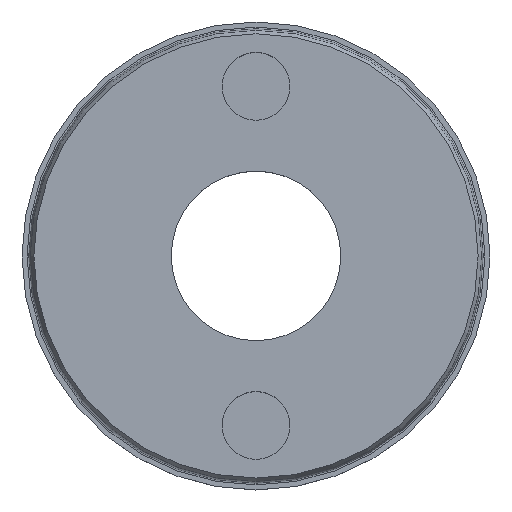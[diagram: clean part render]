
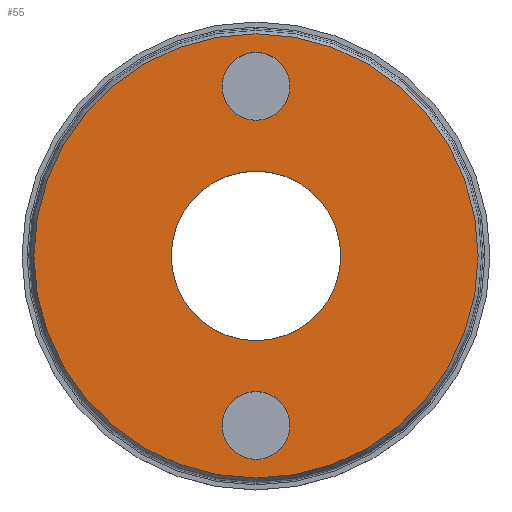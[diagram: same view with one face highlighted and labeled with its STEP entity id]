
A CAD part, top view. The second image highlights one B-rep face of the part: STEP entity #55.
In plain terms, the highlighted planar face has unit normal (0, 0, 1).
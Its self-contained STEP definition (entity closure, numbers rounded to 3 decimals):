
#55=ADVANCED_FACE('',(#76,#77,#78,#79),#71,.T.);
#71=PLANE('',#223);
#76=FACE_BOUND('',#106,.T.);
#77=FACE_BOUND('',#107,.T.);
#78=FACE_BOUND('',#108,.T.);
#79=FACE_BOUND('',#109,.T.);
#106=EDGE_LOOP('',(#138));
#107=EDGE_LOOP('',(#139));
#108=EDGE_LOOP('',(#140));
#109=EDGE_LOOP('',(#141));
#138=ORIENTED_EDGE('',*,*,#186,.T.);
#139=ORIENTED_EDGE('',*,*,#187,.T.);
#140=ORIENTED_EDGE('',*,*,#188,.T.);
#141=ORIENTED_EDGE('',*,*,#189,.F.);
#170=VERTEX_POINT('',#319);
#171=VERTEX_POINT('',#321);
#172=VERTEX_POINT('',#323);
#173=VERTEX_POINT('',#325);
#186=EDGE_CURVE('',#170,#170,#202,.T.);
#187=EDGE_CURVE('',#171,#171,#203,.T.);
#188=EDGE_CURVE('',#172,#172,#204,.T.);
#189=EDGE_CURVE('',#173,#173,#205,.T.);
#202=CIRCLE('',#219,1.);
#203=CIRCLE('',#220,1.);
#204=CIRCLE('',#221,6.55);
#205=CIRCLE('',#222,2.5);
#219=AXIS2_PLACEMENT_3D('',#318,#253,#254);
#220=AXIS2_PLACEMENT_3D('',#320,#255,#256);
#221=AXIS2_PLACEMENT_3D('',#322,#257,#258);
#222=AXIS2_PLACEMENT_3D('',#324,#259,#260);
#223=AXIS2_PLACEMENT_3D('',#326,#261,#262);
#253=DIRECTION('',(0.,0.,-1.));
#254=DIRECTION('',(-1.,0.,0.));
#255=DIRECTION('',(0.,0.,-1.));
#256=DIRECTION('',(-1.,0.,0.));
#257=DIRECTION('',(0.,0.,1.));
#258=DIRECTION('',(1.,0.,0.));
#259=DIRECTION('',(0.,0.,1.));
#260=DIRECTION('',(1.,0.,0.));
#261=DIRECTION('',(0.,0.,1.));
#262=DIRECTION('',(1.,0.,0.));
#318=CARTESIAN_POINT('',(0.,-5.,1.65));
#319=CARTESIAN_POINT('',(-1.,-5.,1.65));
#320=CARTESIAN_POINT('',(0.,5.,1.65));
#321=CARTESIAN_POINT('',(-1.,5.,1.65));
#322=CARTESIAN_POINT('',(0.,0.,1.65));
#323=CARTESIAN_POINT('',(6.55,0.,1.65));
#324=CARTESIAN_POINT('',(0.,0.,1.65));
#325=CARTESIAN_POINT('',(2.5,0.,1.65));
#326=CARTESIAN_POINT('',(0.,0.,1.65));
